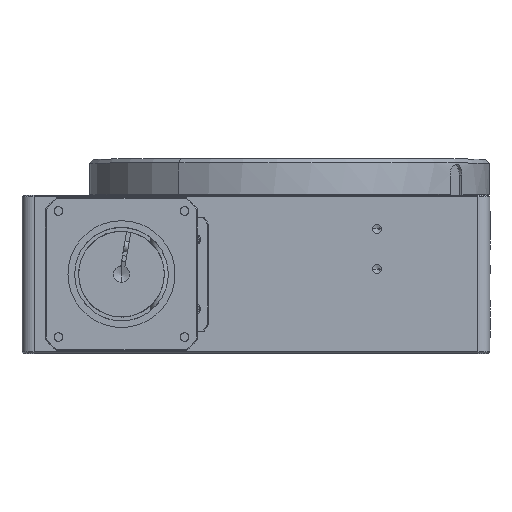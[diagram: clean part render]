
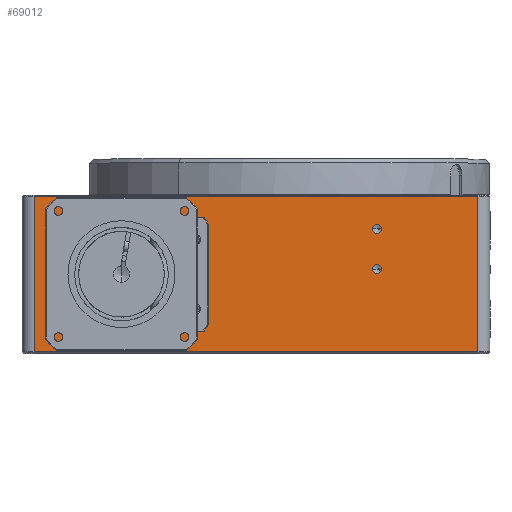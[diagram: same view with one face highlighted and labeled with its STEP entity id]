
A CAD part, top view. The second image highlights one B-rep face of the part: STEP entity #69012.
In plain terms, the highlighted planar face has unit normal (0, 0, 1).
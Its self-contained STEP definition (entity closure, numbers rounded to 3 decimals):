
#359 = VECTOR ( 'NONE', #3488, 1000. ) ;
#1822 = DIRECTION ( 'NONE',  ( -0.574, -0.819, 0. ) ) ;
#2106 = ORIENTED_EDGE ( 'NONE', *, *, #37354, .F. ) ;
#3099 = DIRECTION ( 'NONE',  ( 0., 0., 1. ) ) ;
#3319 = CARTESIAN_POINT ( 'NONE',  ( -100., 8.55, 75. ) ) ;
#3488 = DIRECTION ( 'NONE',  ( 1., 0., 0. ) ) ;
#3868 = ORIENTED_EDGE ( 'NONE', *, *, #31393, .F. ) ;
#4177 = EDGE_CURVE ( 'NONE', #21285, #44590, #87108, .T. ) ;
#4947 = PLANE ( 'NONE',  #70525 ) ;
#8028 = CARTESIAN_POINT ( 'NONE',  ( 31.1, 31.5, 75. ) ) ;
#8407 = CARTESIAN_POINT ( 'NONE',  ( -95.5, 59., 75. ) ) ;
#10674 = CARTESIAN_POINT ( 'NONE',  ( -95.5, 58.5, 75. ) ) ;
#11027 = CARTESIAN_POINT ( 'NONE',  ( -32.06, 8.55, 75. ) ) ;
#11770 = DIRECTION ( 'NONE',  ( -1., 0., 0. ) ) ;
#13139 = EDGE_CURVE ( 'NONE', #80427, #68448, #73960, .T. ) ;
#13959 = CARTESIAN_POINT ( 'NONE',  ( -30.6, 59., 75. ) ) ;
#15640 = EDGE_CURVE ( 'NONE', #80427, #23759, #51893, .T. ) ;
#15658 = CARTESIAN_POINT ( 'NONE',  ( -89.5, 47.655, 75. ) ) ;
#16164 = DIRECTION ( 'NONE',  ( 1., 0., 0. ) ) ;
#16230 = DIRECTION ( 'NONE',  ( 0., 0., 1. ) ) ;
#16247 = CARTESIAN_POINT ( 'NONE',  ( 32.75, 46.5, 75. ) ) ;
#16543 = EDGE_CURVE ( 'NONE', #58188, #27353, #19520, .T. ) ;
#17809 = EDGE_CURVE ( 'NONE', #28052, #23759, #28003, .T. ) ;
#18338 = EDGE_CURVE ( 'NONE', #65209, #21372, #25715, .T. ) ;
#19520 = CIRCLE ( 'NONE', #87356, 1.65 ) ;
#19882 = CIRCLE ( 'NONE', #70527, 1.65 ) ;
#20045 = EDGE_CURVE ( 'NONE', #21372, #65209, #19882, .T. ) ;
#20951 = DIRECTION ( 'NONE',  ( 0.574, -0.819, 0. ) ) ;
#21210 = EDGE_LOOP ( 'NONE', ( #71396, #80139, #68366, #85915 ) ) ;
#21285 = VERTEX_POINT ( 'NONE', #11027 ) ;
#21372 = VERTEX_POINT ( 'NONE', #8028 ) ;
#21978 = CARTESIAN_POINT ( 'NONE',  ( -89.5, 11.345, 75. ) ) ;
#23549 = LINE ( 'NONE', #44161, #359 ) ;
#23759 = VERTEX_POINT ( 'NONE', #42700 ) ;
#23885 = LINE ( 'NONE', #51809, #25952 ) ;
#24088 = EDGE_CURVE ( 'NONE', #27353, #58188, #70837, .T. ) ;
#24362 = VERTEX_POINT ( 'NONE', #83487 ) ;
#25715 = CIRCLE ( 'NONE', #69910, 1.65 ) ;
#25952 = VECTOR ( 'NONE', #58643, 1000. ) ;
#26790 = ORIENTED_EDGE ( 'NONE', *, *, #26970, .F. ) ;
#26791 = EDGE_CURVE ( 'NONE', #71704, #55220, #49754, .T. ) ;
#26932 = CARTESIAN_POINT ( 'NONE',  ( -95.5, 0.5, 75. ) ) ;
#26970 = EDGE_CURVE ( 'NONE', #44590, #71704, #40623, .T. ) ;
#27353 = VERTEX_POINT ( 'NONE', #43787 ) ;
#27791 = ORIENTED_EDGE ( 'NONE', *, *, #37726, .F. ) ;
#28003 = LINE ( 'NONE', #44006, #76475 ) ;
#28052 = VERTEX_POINT ( 'NONE', #35854 ) ;
#28603 = DIRECTION ( 'NONE',  ( 0., 1., 0. ) ) ;
#28788 = LINE ( 'NONE', #3319, #28806 ) ;
#28806 = VECTOR ( 'NONE', #44307, 1000. ) ;
#28814 = CARTESIAN_POINT ( 'NONE',  ( 31.1, 46.5, 75. ) ) ;
#29610 = ORIENTED_EDGE ( 'NONE', *, *, #34979, .F. ) ;
#30685 = DIRECTION ( 'NONE',  ( 0., 0., 1. ) ) ;
#30917 = DIRECTION ( 'NONE',  ( 0., -1., 0. ) ) ;
#30982 = DIRECTION ( 'NONE',  ( 0., 0., 1. ) ) ;
#31091 = CARTESIAN_POINT ( 'NONE',  ( -62.8, 29.5, 75. ) ) ;
#31393 = EDGE_CURVE ( 'NONE', #24362, #21285, #28788, .T. ) ;
#31610 = VERTEX_POINT ( 'NONE', #21978 ) ;
#33417 = ORIENTED_EDGE ( 'NONE', *, *, #4177, .F. ) ;
#34979 = EDGE_CURVE ( 'NONE', #31610, #24362, #74213, .T. ) ;
#35641 = EDGE_CURVE ( 'NONE', #72750, #31610, #82195, .T. ) ;
#35854 = CARTESIAN_POINT ( 'NONE',  ( 70.5, 58.5, 75. ) ) ;
#36701 = LINE ( 'NONE', #49732, #38178 ) ;
#37354 = EDGE_CURVE ( 'NONE', #63473, #72750, #36701, .T. ) ;
#37726 = EDGE_CURVE ( 'NONE', #55220, #63473, #23885, .T. ) ;
#38178 = VECTOR ( 'NONE', #1822, 1000. ) ;
#38625 = VECTOR ( 'NONE', #61878, 1000. ) ;
#40623 = LINE ( 'NONE', #13959, #38625 ) ;
#42700 = CARTESIAN_POINT ( 'NONE',  ( 70.5, 0.5, 75. ) ) ;
#42950 = CARTESIAN_POINT ( 'NONE',  ( 34.4, 31.5, 75. ) ) ;
#43787 = CARTESIAN_POINT ( 'NONE',  ( 34.4, 46.5, 75. ) ) ;
#43997 = DIRECTION ( 'NONE',  ( 0., -1., 0. ) ) ;
#44006 = CARTESIAN_POINT ( 'NONE',  ( 70.5, 59., 75. ) ) ;
#44079 = CARTESIAN_POINT ( 'NONE',  ( 32.75, 46.5, 75. ) ) ;
#44161 = CARTESIAN_POINT ( 'NONE',  ( -100., 58.5, 75. ) ) ;
#44307 = DIRECTION ( 'NONE',  ( 1., 0., 0. ) ) ;
#44590 = VERTEX_POINT ( 'NONE', #48001 ) ;
#45116 = EDGE_LOOP ( 'NONE', ( #68444, #26790, #33417, #3868, #29610, #58445, #2106, #27791 ) ) ;
#46617 = CARTESIAN_POINT ( 'NONE',  ( -30.6, 48.128, 75. ) ) ;
#48001 = CARTESIAN_POINT ( 'NONE',  ( -30.6, 10.872, 75. ) ) ;
#49732 = CARTESIAN_POINT ( 'NONE',  ( -87.543, 50.45, 75. ) ) ;
#49754 = CIRCLE ( 'NONE', #70948, 37.2 ) ;
#50162 = AXIS2_PLACEMENT_3D ( 'NONE', #31091, #30982, #30917 ) ;
#50828 = ORIENTED_EDGE ( 'NONE', *, *, #18338, .F. ) ;
#50983 = DIRECTION ( 'NONE',  ( 1., 0., 0. ) ) ;
#51711 = VECTOR ( 'NONE', #60585, 1000. ) ;
#51809 = CARTESIAN_POINT ( 'NONE',  ( -100., 50.45, 75. ) ) ;
#51893 = LINE ( 'NONE', #61457, #51711 ) ;
#52267 = DIRECTION ( 'NONE',  ( 1., 0., 0. ) ) ;
#52363 = DIRECTION ( 'NONE',  ( 0., 0., 1. ) ) ;
#52371 = ORIENTED_EDGE ( 'NONE', *, *, #24088, .F. ) ;
#52550 = CARTESIAN_POINT ( 'NONE',  ( 32.75, 31.5, 75. ) ) ;
#52845 = DIRECTION ( 'NONE',  ( 0., 0., -1. ) ) ;
#55220 = VERTEX_POINT ( 'NONE', #79113 ) ;
#56291 = EDGE_LOOP ( 'NONE', ( #50828, #69232 ) ) ;
#58188 = VERTEX_POINT ( 'NONE', #28814 ) ;
#58445 = ORIENTED_EDGE ( 'NONE', *, *, #35641, .F. ) ;
#58643 = DIRECTION ( 'NONE',  ( -1., 0., 0. ) ) ;
#59234 = FACE_BOUND ( 'NONE', #73619, .T. ) ;
#60585 = DIRECTION ( 'NONE',  ( 1., 0., 0. ) ) ;
#61378 = FACE_OUTER_BOUND ( 'NONE', #21210, .T. ) ;
#61457 = CARTESIAN_POINT ( 'NONE',  ( -100., 0.5, 75. ) ) ;
#61878 = DIRECTION ( 'NONE',  ( 0., 1., 0. ) ) ;
#62042 = FACE_BOUND ( 'NONE', #56291, .T. ) ;
#62120 = FACE_BOUND ( 'NONE', #45116, .T. ) ;
#63454 = AXIS2_PLACEMENT_3D ( 'NONE', #44079, #3099, #50983 ) ;
#63473 = VERTEX_POINT ( 'NONE', #85627 ) ;
#65095 = ORIENTED_EDGE ( 'NONE', *, *, #16543, .F. ) ;
#65209 = VERTEX_POINT ( 'NONE', #42950 ) ;
#65609 = CARTESIAN_POINT ( 'NONE',  ( -89.5, 59., 75. ) ) ;
#68350 = DIRECTION ( 'NONE',  ( 1., 0., 0. ) ) ;
#68366 = ORIENTED_EDGE ( 'NONE', *, *, #80072, .F. ) ;
#68434 = DIRECTION ( 'NONE',  ( 0., 0., 1. ) ) ;
#68444 = ORIENTED_EDGE ( 'NONE', *, *, #26791, .F. ) ;
#68446 = CARTESIAN_POINT ( 'NONE',  ( 32.75, 31.5, 75. ) ) ;
#68448 = VERTEX_POINT ( 'NONE', #10674 ) ;
#69012 = ADVANCED_FACE ( 'NONE', ( #61378, #62042, #59234, #62120 ), #4947, .F. ) ;
#69232 = ORIENTED_EDGE ( 'NONE', *, *, #20045, .F. ) ;
#69910 = AXIS2_PLACEMENT_3D ( 'NONE', #52550, #52363, #52267 ) ;
#70525 = AXIS2_PLACEMENT_3D ( 'NONE', #79761, #52845, #11770 ) ;
#70527 = AXIS2_PLACEMENT_3D ( 'NONE', #68446, #68434, #68350 ) ;
#70837 = CIRCLE ( 'NONE', #63454, 1.65 ) ;
#70948 = AXIS2_PLACEMENT_3D ( 'NONE', #71659, #30685, #78466 ) ;
#71396 = ORIENTED_EDGE ( 'NONE', *, *, #15640, .T. ) ;
#71659 = CARTESIAN_POINT ( 'NONE',  ( -62.8, 29.5, 75. ) ) ;
#71704 = VERTEX_POINT ( 'NONE', #46617 ) ;
#72140 = DIRECTION ( 'NONE',  ( 0., -1., 0. ) ) ;
#72750 = VERTEX_POINT ( 'NONE', #15658 ) ;
#73619 = EDGE_LOOP ( 'NONE', ( #52371, #65095 ) ) ;
#73960 = LINE ( 'NONE', #8407, #74215 ) ;
#74213 = LINE ( 'NONE', #75312, #74732 ) ;
#74215 = VECTOR ( 'NONE', #28603, 1000. ) ;
#74732 = VECTOR ( 'NONE', #20951, 1000. ) ;
#75312 = CARTESIAN_POINT ( 'NONE',  ( -89.5, 11.345, 75. ) ) ;
#76475 = VECTOR ( 'NONE', #43997, 1000. ) ;
#78466 = DIRECTION ( 'NONE',  ( 1., 0., 0. ) ) ;
#79113 = CARTESIAN_POINT ( 'NONE',  ( -32.06, 50.45, 75. ) ) ;
#79761 = CARTESIAN_POINT ( 'NONE',  ( -100., 59., 75. ) ) ;
#80072 = EDGE_CURVE ( 'NONE', #68448, #28052, #23549, .T. ) ;
#80139 = ORIENTED_EDGE ( 'NONE', *, *, #17809, .F. ) ;
#80427 = VERTEX_POINT ( 'NONE', #26932 ) ;
#82195 = LINE ( 'NONE', #65609, #82448 ) ;
#82448 = VECTOR ( 'NONE', #72140, 1000. ) ;
#83487 = CARTESIAN_POINT ( 'NONE',  ( -87.543, 8.55, 75. ) ) ;
#85627 = CARTESIAN_POINT ( 'NONE',  ( -87.543, 50.45, 75. ) ) ;
#85915 = ORIENTED_EDGE ( 'NONE', *, *, #13139, .F. ) ;
#87108 = CIRCLE ( 'NONE', #50162, 37.2 ) ;
#87356 = AXIS2_PLACEMENT_3D ( 'NONE', #16247, #16230, #16164 ) ;
